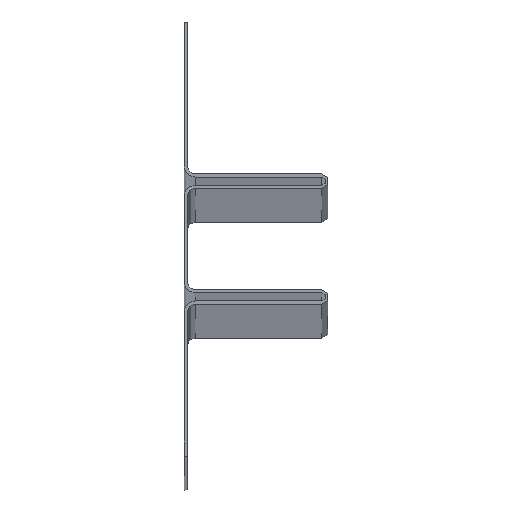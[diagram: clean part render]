
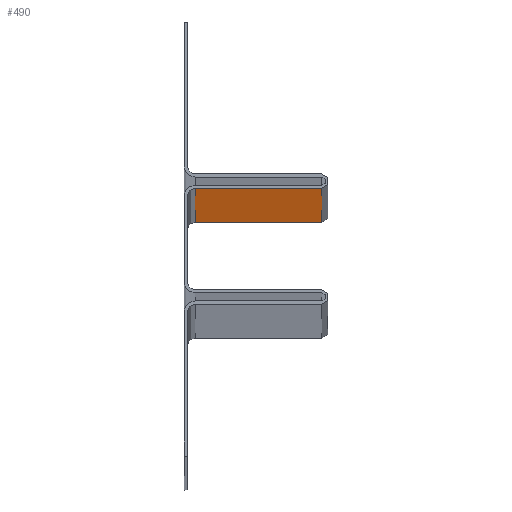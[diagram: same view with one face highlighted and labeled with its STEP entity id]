
A CAD part, top view. The second image highlights one B-rep face of the part: STEP entity #490.
In plain terms, the highlighted planar face has unit normal (0, -1, 0).
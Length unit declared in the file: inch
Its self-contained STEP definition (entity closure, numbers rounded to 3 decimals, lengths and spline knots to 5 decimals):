
#26 = CARTESIAN_POINT ( 'NONE',  ( 0.05, -0.09, 120. ) ) ;
#36 = ORIENTED_EDGE ( 'NONE', *, *, #1069, .T. ) ;
#48 = VERTEX_POINT ( 'NONE', #172 ) ;
#64 = DIRECTION ( 'NONE',  ( 0., 0., -1. ) ) ;
#71 = CARTESIAN_POINT ( 'NONE',  ( 0.83, -0.09, 0. ) ) ;
#80 = CARTESIAN_POINT ( 'NONE',  ( 0.83, -0.09, 120. ) ) ;
#103 = VECTOR ( 'NONE', #64, 39.37008 ) ;
#172 = CARTESIAN_POINT ( 'NONE',  ( 0.05, -0.09, 0. ) ) ;
#306 = LINE ( 'NONE', #1103, #1040 ) ;
#309 = AXIS2_PLACEMENT_3D ( 'NONE', #80, #1134, #949 ) ;
#315 = EDGE_LOOP ( 'NONE', ( #548, #901, #36, #502 ) ) ;
#318 = CARTESIAN_POINT ( 'NONE',  ( 0.83, -0.09, 120. ) ) ;
#350 = DIRECTION ( 'NONE',  ( -1., 0., 0. ) ) ;
#364 = CARTESIAN_POINT ( 'NONE',  ( 0.83, -0.09, 120. ) ) ;
#411 = VECTOR ( 'NONE', #350, 39.37008 ) ;
#412 = DIRECTION ( 'NONE',  ( -1., 0., 0. ) ) ;
#427 = LINE ( 'NONE', #364, #411 ) ;
#473 = VERTEX_POINT ( 'NONE', #71 ) ;
#490 = ADVANCED_FACE ( 'NONE', ( #612 ), #619, .T. ) ;
#502 = ORIENTED_EDGE ( 'NONE', *, *, #855, .T. ) ;
#548 = ORIENTED_EDGE ( 'NONE', *, *, #836, .F. ) ;
#612 = FACE_OUTER_BOUND ( 'NONE', #315, .T. ) ;
#619 = PLANE ( 'NONE',  #309 ) ;
#629 = VECTOR ( 'NONE', #879, 39.37008 ) ;
#631 = CARTESIAN_POINT ( 'NONE',  ( 0.83, -0.09, 120. ) ) ;
#653 = VERTEX_POINT ( 'NONE', #26 ) ;
#714 = LINE ( 'NONE', #631, #629 ) ;
#813 = VERTEX_POINT ( 'NONE', #318 ) ;
#836 = EDGE_CURVE ( 'NONE', #473, #48, #306, .T. ) ;
#855 = EDGE_CURVE ( 'NONE', #653, #48, #927, .T. ) ;
#879 = DIRECTION ( 'NONE',  ( 0., 0., -1. ) ) ;
#901 = ORIENTED_EDGE ( 'NONE', *, *, #1004, .F. ) ;
#927 = LINE ( 'NONE', #1030, #103 ) ;
#949 = DIRECTION ( 'NONE',  ( 1., 0., 0. ) ) ;
#1004 = EDGE_CURVE ( 'NONE', #813, #473, #714, .T. ) ;
#1030 = CARTESIAN_POINT ( 'NONE',  ( 0.05, -0.09, 120. ) ) ;
#1040 = VECTOR ( 'NONE', #412, 39.37008 ) ;
#1069 = EDGE_CURVE ( 'NONE', #813, #653, #427, .T. ) ;
#1103 = CARTESIAN_POINT ( 'NONE',  ( 0.83, -0.09, 0. ) ) ;
#1134 = DIRECTION ( 'NONE',  ( 0., -1., 0. ) ) ;
